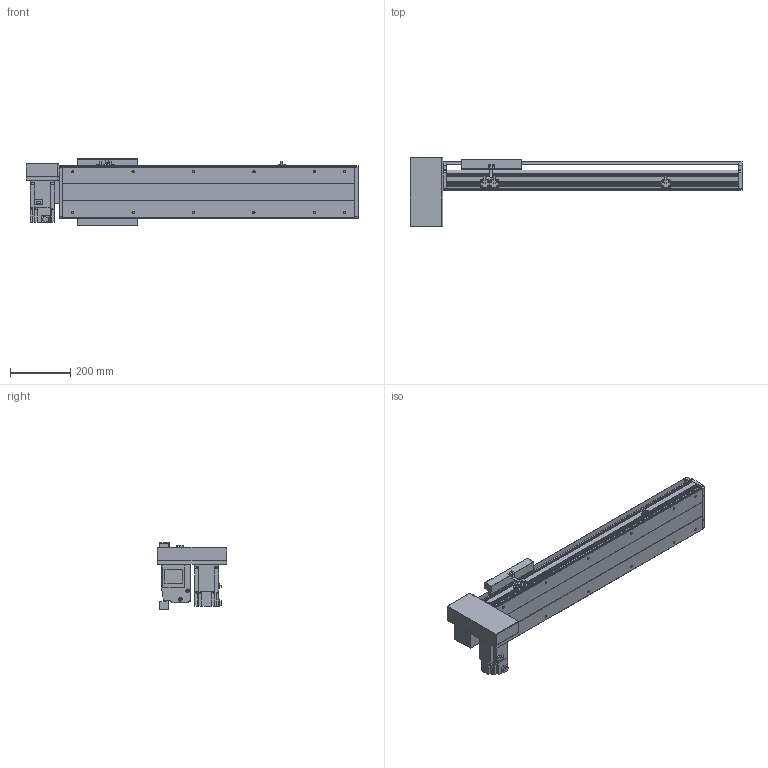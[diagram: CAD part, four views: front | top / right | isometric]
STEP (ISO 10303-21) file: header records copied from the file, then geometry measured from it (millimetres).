
FILE_DESCRIPTION(/* description */ ('STEP AP214'),/* implementation_level */ '2;1');
FILE_NAME(/* name */ 'PBS200-P40-S600-RD-T75-C1-N(0)',/* time_stamp */ '2022-06-11T09:28:15+02:00',/* author */ ('License CC BY-ND 4.0'),/* organization */ ('CADENAS'),/* preprocessor_version */ 'ST-DEVELOPER v18.102',/* originating_system */ 'PARTsolutions',/* authorisation */ ' ');
FILE_SCHEMA (('AUTOMOTIVE_DESIGN {1 0 10303 214 3 1 1}'));
Length unit declared in the file: millimetre
Products named in the file (7): PBS200-P40-S600-RD-T75-C1-N(0); PBS200_sensor; PBS200_plant; PBS200_sliser; T75-p1; PBS200T-RD_motors; PBS200-S600()_body
Assembly tree (8 placements, depth 2):
  PBS200-P40-S600-RD-T75-C1-N(0)
    PBS200_sensor  x3
    PBS200_plant
    PBS200_sliser
    T75-p1
    PBS200T-RD_motors
    PBS200-S600()_body
Bounding box: 1100 x 230 x 221 mm (x, y, z)
Volume: 8739367.7 mm3; surface area: 1425821.2 mm2
Topology: 8 solids, 8 shells, 908 faces, 2354 edges, 1536 vertices
Faces by surface type: plane 570, cylinder 294, cone 44
Full cylindrical faces by diameter (mm): 2.459 x6, 3.242 x4, 4.5 x6, 4.917 x4, 5 x6, 6 x7, 6.6 x8, 6.647 x16, 8 x6, 10 x4, 12 x8, 38 x2, 40 x1, 70 x1
Entity records: 24341 total; most frequent: DIRECTION 4279, CARTESIAN_POINT 4156, ORIENTED_EDGE 3958, EDGE_CURVE 1979, AXIS2_PLACEMENT_3D 1483, VERTEX_POINT 1360, LINE 1313, VECTOR 1313
